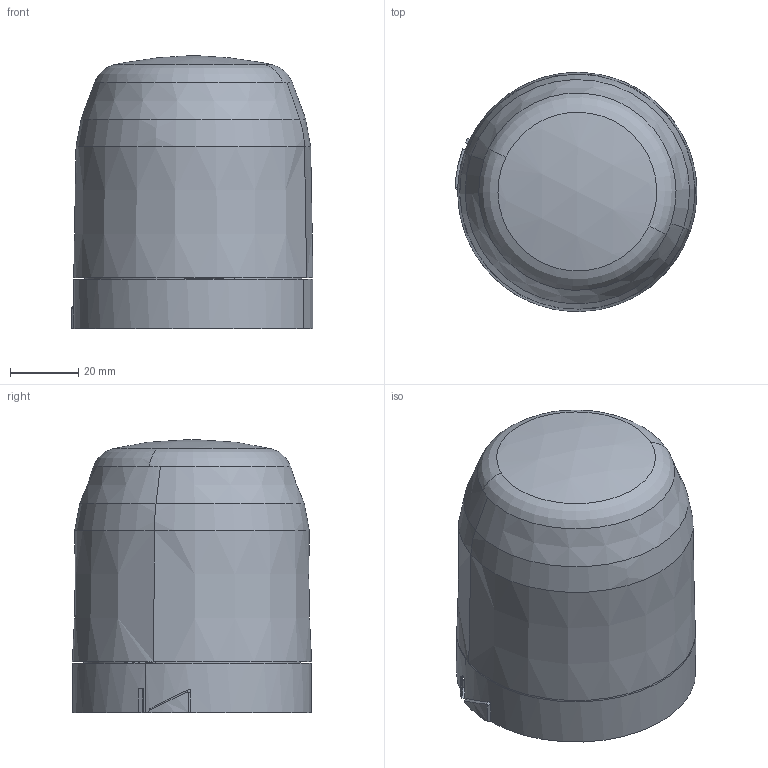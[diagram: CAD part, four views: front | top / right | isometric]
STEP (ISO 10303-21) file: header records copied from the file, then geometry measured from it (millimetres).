
FILE_DESCRIPTION((''),'2;1');
FILE_NAME('856T-BEACON_MODULE_SW0001','2018-07-02T10:49:11',('WJPreisc'),('Rockwell Automation'),'CREO PARAMETRIC BY PTC INC, 2017380','CREO PARAMETRIC BY PTC INC, 2017380','');
FILE_SCHEMA(('CONFIG_CONTROL_DESIGN'));
Length unit declared in the file: millimetre
Products named in the file (1): 856T-BEACON_MODULE_SW0001
Bounding box: 70.78 x 69.99 x 79.9 mm (x, y, z)
Surface area: 44717.7 mm2 (no closed solid volume)
Topology: 0 solids, 38 shells, 798 faces, 3095 edges, 2310 vertices
Faces by surface type: bspline 527, plane 151, cylinder 64, cone 42, torus 10, sphere 4
Entity records: 80417 total; most frequent: CARTESIAN_POINT 60682, ORIENTED_EDGE 4726, EDGE_CURVE 3094, VERTEX_POINT 2312, B_SPLINE_CURVE_WITH_KNOTS 1970, DIRECTION 1953, EDGE_LOOP 869, VECTOR 837
